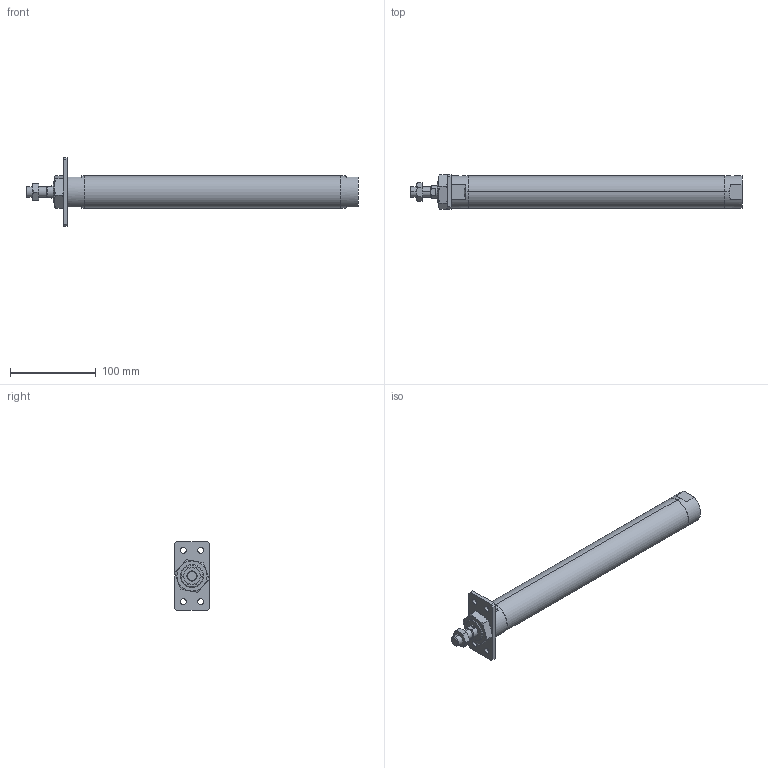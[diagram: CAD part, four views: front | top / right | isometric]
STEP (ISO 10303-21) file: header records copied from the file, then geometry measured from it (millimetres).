
FILE_DESCRIPTION (( 'STEP AP203' ), '1' );
FILE_NAME ('JGND2-32-250-A.STEP', '2016-08-04T02:58:07', ( '' ), ( '' ), 'SwSTEP 2.0', 'SolidWorks 2014', '' );
FILE_SCHEMA (( 'CONFIG_CONTROL_DESIGN' ));
Length unit declared in the file: millimetre
Products named in the file (5): J#2-32-A; J#2-32-250(P); JGND2-32-250-A
Assembly tree (4 placements, depth 2):
  JGND2-32-250-A
    J#2-32-250(P)
    (unnamed)
    (unnamed)
    J#2-32-A
Bounding box: 387 x 40 x 80 mm (x, y, z)
Volume: 404486 mm3; surface area: 57006.2 mm2
Topology: 4 solids, 4 shells, 109 faces, 254 edges, 155 vertices
Faces by surface type: plane 42, cylinder 30, torus 24, cone 13
Entity records: 4084 total; most frequent: CARTESIAN_POINT 1128, DIRECTION 511, ORIENTED_EDGE 500, EDGE_CURVE 250, AXIS2_PLACEMENT_3D 208, VERTEX_POINT 155, EDGE_LOOP 129, ADVANCED_FACE 109
